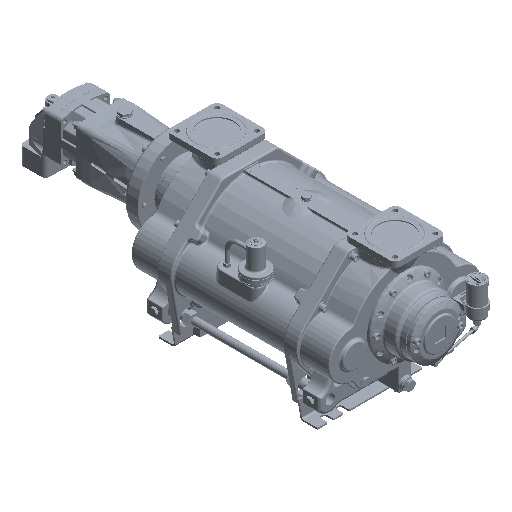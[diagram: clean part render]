
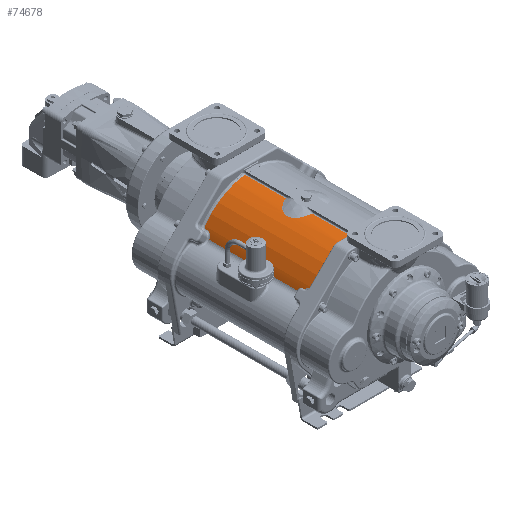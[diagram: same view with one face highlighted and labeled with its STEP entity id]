
A CAD part, isometric view. The second image highlights one B-rep face of the part: STEP entity #74678.
In plain terms, the highlighted cylindrical face has radius 180.5 mm (diameter 361 mm), a partial arc.
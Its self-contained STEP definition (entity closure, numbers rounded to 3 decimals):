
#1798=B_SPLINE_CURVE_WITH_KNOTS('',3,(#125716,#125717,#125718,#125719,#125720,
#125721,#125722,#125723,#125724,#125725,#125726,#125727,#125728),
 .UNSPECIFIED.,.F.,.F.,(4,1,1,1,1,1,1,1,1,1,4),(-12.376,-10.608,
-8.84,-7.956,-7.072,-6.483,
-5.304,-4.715,-3.536,-1.768,
0.),.UNSPECIFIED.);
#1800=B_SPLINE_CURVE_WITH_KNOTS('',3,(#125757,#125758,#125759,#125760,#125761,
#125762),.UNSPECIFIED.,.F.,.F.,(4,1,1,4),(-0.794,-0.567,
-0.34,0.),.UNSPECIFIED.);
#1801=B_SPLINE_CURVE_WITH_KNOTS('',3,(#125766,#125767,#125768,#125769,#125770,
#125771),.UNSPECIFIED.,.F.,.F.,(4,1,1,4),(0.,1.028,1.714,
2.399),.UNSPECIFIED.);
#1802=B_SPLINE_CURVE_WITH_KNOTS('',3,(#125779,#125780,#125781,#125782,#125783,
#125784,#125785),.UNSPECIFIED.,.F.,.F.,(4,1,1,1,4),(0.,
0.686,1.028,1.714,2.399),
 .UNSPECIFIED.);
#1803=B_SPLINE_CURVE_WITH_KNOTS('',3,(#125789,#125790,#125791,#125792,#125793,
#125794,#125795),.UNSPECIFIED.,.F.,.F.,(4,1,1,1,4),(-0.794,
-0.567,-0.34,-0.113,0.),
 .UNSPECIFIED.);
#4922=CYLINDRICAL_SURFACE('',#82047,180.5);
#7901=LINE('',#125749,#12656);
#7902=LINE('',#125753,#12657);
#7903=LINE('',#125764,#12658);
#7904=LINE('',#125775,#12659);
#7905=LINE('',#125787,#12660);
#12656=VECTOR('',#94702,10.);
#12657=VECTOR('',#94707,10.);
#12658=VECTOR('',#94710,10.);
#12659=VECTOR('',#94713,10.);
#12660=VECTOR('',#94716,10.);
#17733=FACE_OUTER_BOUND('',#22353,.T.);
#22353=EDGE_LOOP('',(#55653,#55654,#55655,#55656,#55657,#55658,#55659,#55660,
#55661,#55662,#55663,#55664,#55665,#55666));
#27076=CIRCLE('',#82048,180.5);
#27077=CIRCLE('',#82049,180.5);
#27078=CIRCLE('',#82050,180.5);
#27079=CIRCLE('',#82051,180.5);
#31729=VERTEX_POINT('',#125713);
#31730=VERTEX_POINT('',#125715);
#31731=VERTEX_POINT('',#125748);
#31732=VERTEX_POINT('',#125752);
#31733=VERTEX_POINT('',#125754);
#31734=VERTEX_POINT('',#125756);
#31735=VERTEX_POINT('',#125763);
#31736=VERTEX_POINT('',#125765);
#31737=VERTEX_POINT('',#125772);
#31738=VERTEX_POINT('',#125774);
#31739=VERTEX_POINT('',#125776);
#31740=VERTEX_POINT('',#125778);
#31741=VERTEX_POINT('',#125786);
#31742=VERTEX_POINT('',#125788);
#40354=EDGE_CURVE('',#31729,#31730,#1798,.T.);
#40359=EDGE_CURVE('',#31730,#31731,#7901,.T.);
#40361=EDGE_CURVE('',#31732,#31729,#7902,.T.);
#40362=EDGE_CURVE('',#31733,#31732,#27076,.T.);
#40363=EDGE_CURVE('',#31734,#31733,#1800,.T.);
#40364=EDGE_CURVE('',#31735,#31734,#7903,.T.);
#40365=EDGE_CURVE('',#31736,#31735,#1801,.T.);
#40366=EDGE_CURVE('',#31737,#31736,#27077,.T.);
#40367=EDGE_CURVE('',#31738,#31737,#7904,.T.);
#40368=EDGE_CURVE('',#31739,#31738,#27078,.T.);
#40369=EDGE_CURVE('',#31740,#31739,#1802,.T.);
#40370=EDGE_CURVE('',#31741,#31740,#7905,.T.);
#40371=EDGE_CURVE('',#31742,#31741,#1803,.T.);
#40372=EDGE_CURVE('',#31731,#31742,#27079,.T.);
#55653=ORIENTED_EDGE('',*,*,#40354,.F.);
#55654=ORIENTED_EDGE('',*,*,#40361,.F.);
#55655=ORIENTED_EDGE('',*,*,#40362,.F.);
#55656=ORIENTED_EDGE('',*,*,#40363,.F.);
#55657=ORIENTED_EDGE('',*,*,#40364,.F.);
#55658=ORIENTED_EDGE('',*,*,#40365,.F.);
#55659=ORIENTED_EDGE('',*,*,#40366,.F.);
#55660=ORIENTED_EDGE('',*,*,#40367,.F.);
#55661=ORIENTED_EDGE('',*,*,#40368,.F.);
#55662=ORIENTED_EDGE('',*,*,#40369,.F.);
#55663=ORIENTED_EDGE('',*,*,#40370,.F.);
#55664=ORIENTED_EDGE('',*,*,#40371,.F.);
#55665=ORIENTED_EDGE('',*,*,#40372,.F.);
#55666=ORIENTED_EDGE('',*,*,#40359,.F.);
#74678=ADVANCED_FACE('',(#17733),#4922,.T.);
#82047=AXIS2_PLACEMENT_3D('',#125751,#94705,#94706);
#82048=AXIS2_PLACEMENT_3D('',#125755,#94708,#94709);
#82049=AXIS2_PLACEMENT_3D('',#125773,#94711,#94712);
#82050=AXIS2_PLACEMENT_3D('',#125777,#94714,#94715);
#82051=AXIS2_PLACEMENT_3D('',#125796,#94717,#94718);
#94702=DIRECTION('',(0.,0.,-1.));
#94705=DIRECTION('center_axis',(0.,0.,
1.));
#94706=DIRECTION('ref_axis',(0.891,0.454,0.));
#94707=DIRECTION('',(0.,0.,-1.));
#94708=DIRECTION('center_axis',(0.,0.,
1.));
#94709=DIRECTION('ref_axis',(0.525,0.851,0.));
#94710=DIRECTION('',(0.,0.,1.));
#94711=DIRECTION('center_axis',(0.,0.,
1.));
#94712=DIRECTION('ref_axis',(0.89,0.456,0.));
#94713=DIRECTION('',(0.,0.,1.));
#94714=DIRECTION('center_axis',(0.,0.,
-1.));
#94715=DIRECTION('ref_axis',(0.89,0.456,0.));
#94716=DIRECTION('',(0.,0.,1.));
#94717=DIRECTION('center_axis',(0.,0.,
-1.));
#94718=DIRECTION('ref_axis',(0.525,0.851,0.));
#125713=CARTESIAN_POINT('',(22.624,179.077,41.985));
#125715=CARTESIAN_POINT('',(22.624,179.077,-41.985));
#125716=CARTESIAN_POINT('Ctrl Pts',(22.624,179.077,41.985));
#125717=CARTESIAN_POINT('Ctrl Pts',(28.152,178.378,40.358));
#125718=CARTESIAN_POINT('Ctrl Pts',(38.793,176.504,35.838));
#125719=CARTESIAN_POINT('Ctrl Pts',(49.975,173.518,26.651));
#125720=CARTESIAN_POINT('Ctrl Pts',(56.498,171.447,17.041));
#125721=CARTESIAN_POINT('Ctrl Pts',(59.357,170.465,9.751));
#125722=CARTESIAN_POINT('Ctrl Pts',(60.856,169.931,1.017));
#125723=CARTESIAN_POINT('Ctrl Pts',(60.17,170.181,-6.931));
#125724=CARTESIAN_POINT('Ctrl Pts',(56.969,171.287,-16.172));
#125725=CARTESIAN_POINT('Ctrl Pts',(50.726,173.316,-26.042));
#125726=CARTESIAN_POINT('Ctrl Pts',(38.789,176.506,-35.837));
#125727=CARTESIAN_POINT('Ctrl Pts',(28.152,178.378,-40.358));
#125728=CARTESIAN_POINT('Ctrl Pts',(22.624,179.077,-41.985));
#125748=CARTESIAN_POINT('',(22.624,179.077,-172.));
#125749=CARTESIAN_POINT('',(22.624,179.077,0.));
#125751=CARTESIAN_POINT('Origin',(0.,0.,
0.));
#125752=CARTESIAN_POINT('',(22.624,179.077,172.));
#125753=CARTESIAN_POINT('',(22.624,179.077,0.));
#125754=CARTESIAN_POINT('',(149.447,101.222,172.));
#125755=CARTESIAN_POINT('Origin',(0.,0.,
172.));
#125756=CARTESIAN_POINT('',(152.176,97.071,167.));
#125757=CARTESIAN_POINT('Ctrl Pts',(152.176,97.071,167.));
#125758=CARTESIAN_POINT('Ctrl Pts',(152.176,97.071,167.756));
#125759=CARTESIAN_POINT('Ctrl Pts',(151.988,97.366,169.264));
#125760=CARTESIAN_POINT('Ctrl Pts',(151.078,98.78,171.358));
#125761=CARTESIAN_POINT('Ctrl Pts',(150.065,100.309,172.));
#125762=CARTESIAN_POINT('Ctrl Pts',(149.447,101.222,172.));
#125763=CARTESIAN_POINT('',(152.176,97.071,162.));
#125764=CARTESIAN_POINT('',(152.176,97.071,0.));
#125765=CARTESIAN_POINT('',(159.757,84.011,147.));
#125766=CARTESIAN_POINT('Ctrl Pts',(159.757,84.011,147.));
#125767=CARTESIAN_POINT('Ctrl Pts',(158.205,86.963,147.));
#125768=CARTESIAN_POINT('Ctrl Pts',(155.458,91.808,148.855));
#125769=CARTESIAN_POINT('Ctrl Pts',(152.749,96.178,155.153));
#125770=CARTESIAN_POINT('Ctrl Pts',(152.176,97.071,159.715));
#125771=CARTESIAN_POINT('Ctrl Pts',(152.176,97.071,162.));
#125772=CARTESIAN_POINT('',(160.817,81.965,147.));
#125773=CARTESIAN_POINT('Origin',(0.,0.,
147.));
#125774=CARTESIAN_POINT('',(160.817,81.965,-147.));
#125775=CARTESIAN_POINT('',(160.817,81.965,0.));
#125776=CARTESIAN_POINT('',(159.757,84.011,-147.));
#125777=CARTESIAN_POINT('Origin',(0.,0.,
-147.));
#125778=CARTESIAN_POINT('',(152.176,97.071,-162.));
#125779=CARTESIAN_POINT('Ctrl Pts',(152.176,97.071,-162.));
#125780=CARTESIAN_POINT('Ctrl Pts',(152.176,97.071,-159.715));
#125781=CARTESIAN_POINT('Ctrl Pts',(152.609,96.399,-156.293));
#125782=CARTESIAN_POINT('Ctrl Pts',(154.234,93.784,-151.487));
#125783=CARTESIAN_POINT('Ctrl Pts',(156.572,89.879,-147.964));
#125784=CARTESIAN_POINT('Ctrl Pts',(158.722,85.979,-147.));
#125785=CARTESIAN_POINT('Ctrl Pts',(159.757,84.011,-147.));
#125786=CARTESIAN_POINT('',(152.176,97.071,-167.));
#125787=CARTESIAN_POINT('',(152.176,97.071,0.));
#125788=CARTESIAN_POINT('',(149.447,101.222,-172.));
#125789=CARTESIAN_POINT('Ctrl Pts',(149.447,101.222,-172.));
#125790=CARTESIAN_POINT('Ctrl Pts',(149.859,100.613,-172.));
#125791=CARTESIAN_POINT('Ctrl Pts',(150.676,99.391,-171.665));
#125792=CARTESIAN_POINT('Ctrl Pts',(151.653,97.889,-170.247));
#125793=CARTESIAN_POINT('Ctrl Pts',(152.107,97.178,-168.512));
#125794=CARTESIAN_POINT('Ctrl Pts',(152.176,97.071,-167.378));
#125795=CARTESIAN_POINT('Ctrl Pts',(152.176,97.071,-167.));
#125796=CARTESIAN_POINT('Origin',(0.,0.,
-172.));
